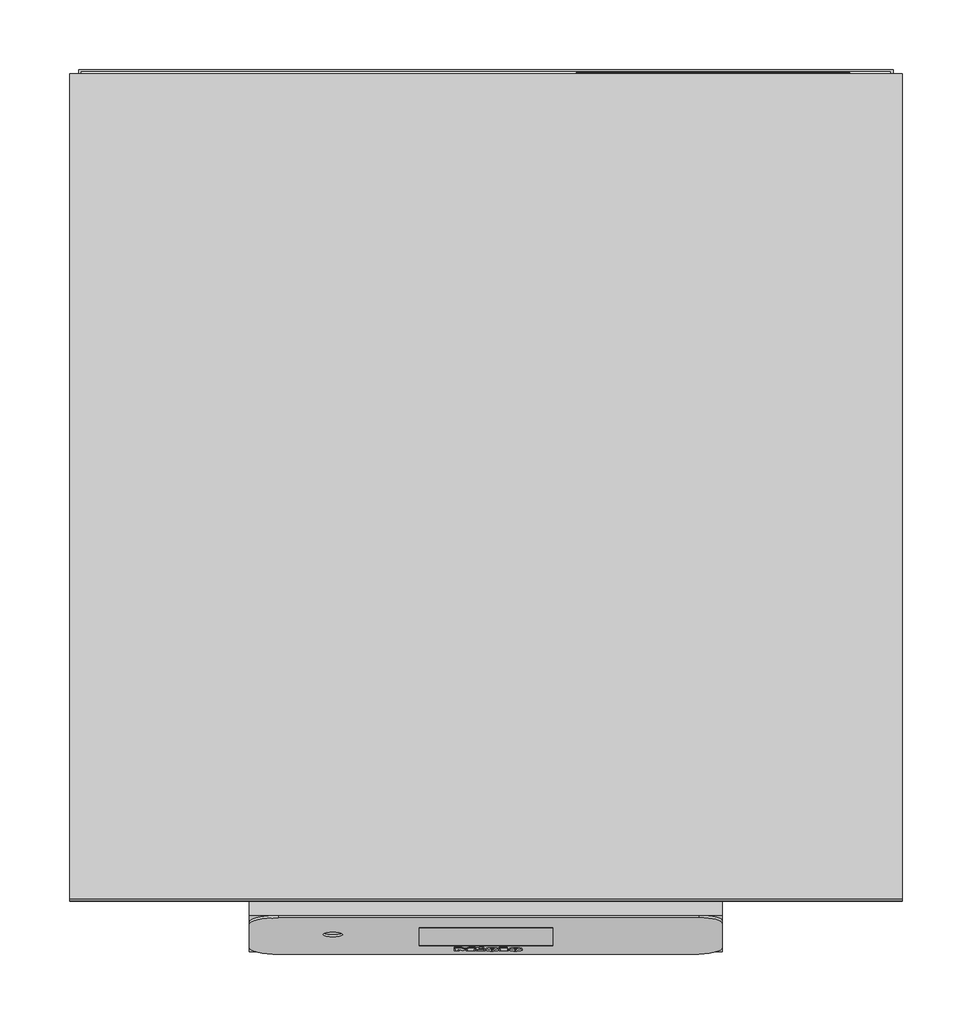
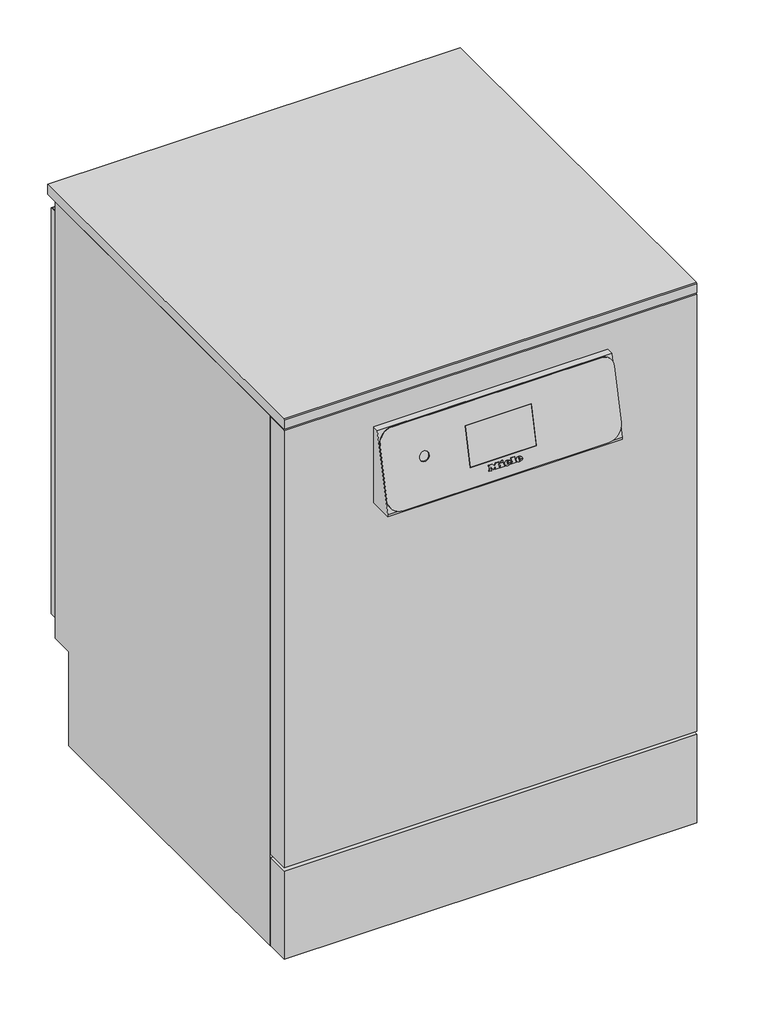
# Not in any storey: 1 proxy.
"""IFC4 building model written with IfcOpenShell, lengths in millimetres."""

from ifc_helpers import new_model, si_unit, origin, place, context, project, spatial, transform, mapped, element, save
from components import specialty_equipment_e72f3e6c

model = new_model("IFC4")

# Units and contexts
model_context = context("Model", 3, world=origin())
ifc_project = project(units=[si_unit("LENGTHUNIT", "METRE", prefix="MILLI")], contexts=[model_context])

# Site, building
site = spatial("IfcSite", under=ifc_project)
building = spatial("IfcBuilding", under=site)

# Proxy
placement = place(None, origin())
specialty_equipment_shape = specialty_equipment_e72f3e6c(model_context)
element("IfcBuildingElementProxy", 1, Name="12065520_DAC_PFD407DOS_LW : 61040782_DAC_12065520_PFD407DOS_LW", ObjectType="12065520_DAC_PFD407DOS_LW : 61040782_DAC_12065520_PFD407DOS_LW", at=placement, inside=building, context=model_context, shape_type="MappedRepresentation", body=[
    mapped(specialty_equipment_shape, transform((0.0, 0.0, 0.0), x_axis=(1.0, 0.0, 0.0), y_axis=(0.0, 1.0, 0.0), z_axis=(0.0, 0.0, 1.0))),
])

save(model, "model.ifc")
